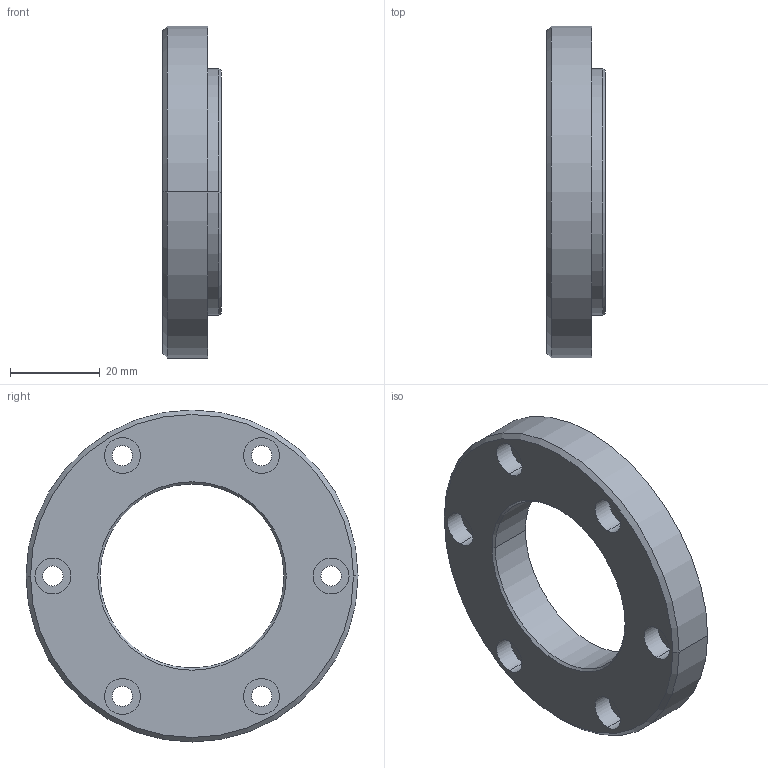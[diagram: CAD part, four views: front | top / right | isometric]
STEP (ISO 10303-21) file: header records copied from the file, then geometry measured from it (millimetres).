
FILE_DESCRIPTION (( 'STEP AP203' ), '1' );
FILE_NAME ('YWSD-2026-03-01-05=001 粣創揤裔II.STEP', '2026-07-24T07:39:20', ( 'Windows 蚚誧' ), ( '' ), 'SwSTEP 2.0', 'SolidWorks 2024', '' );
FILE_SCHEMA (( 'CONFIG_CONTROL_DESIGN' ));
Length unit declared in the file: millimetre
Products named in the file (1): YWSD-2026-03-01-05=001 轴承压盖II
Bounding box: 13 x 74 x 74 mm (x, y, z)
Volume: 28790.6 mm3; surface area: 11294.9 mm2
Topology: 1 solids, 1 shells, 48 faces, 108 edges, 70 vertices
Faces by surface type: cylinder 32, plane 10, cone 6
Entity records: 1479 total; most frequent: DIRECTION 276, CARTESIAN_POINT 227, ORIENTED_EDGE 216, AXIS2_PLACEMENT_3D 119, EDGE_CURVE 108, EDGE_LOOP 70, CIRCLE 70, VERTEX_POINT 70
